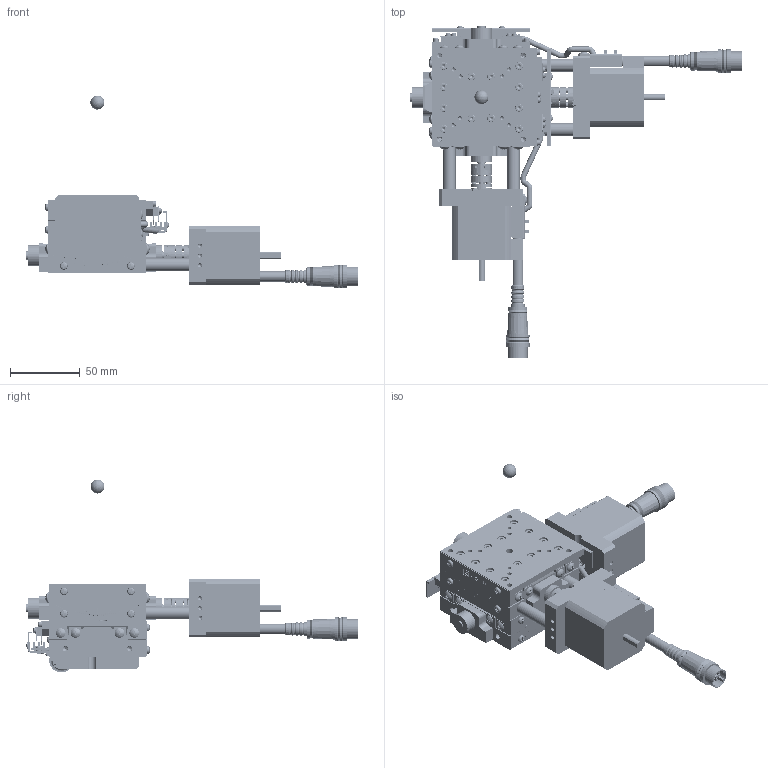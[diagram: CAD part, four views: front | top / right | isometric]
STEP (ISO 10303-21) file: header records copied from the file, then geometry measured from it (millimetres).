
FILE_DESCRIPTION (( 'STEP AP203' ), '1' );
FILE_NAME ('SA07A-RS02.STEP', '2019-02-27T04:08:47', ( '' ), ( '' ), 'SwSTEP 2.0', 'SolidWorks 2018', '' );
FILE_SCHEMA (( 'CONFIG_CONTROL_DESIGN' ));
Length unit declared in the file: millimetre
Products named in the file (11): second table-Part-2; second table; rotation center; base-Part-1; second table-Part-3; table; base-Part-3; base; base-Part-2; SA07A-RS02; second table-Part-1
Assembly tree (10 placements, depth 3):
  SA07A-RS02
    second table
      second table-Part-1
      second table-Part-2
      second table-Part-3
    base
      base-Part-1
      base-Part-2
      base-Part-3
    table
    rotation center
Bounding box: 237.5 x 237.68 x 138 mm (x, y, z)
Volume: 501157.6 mm3; surface area: 146398.2 mm2
Topology: 8 solids, 8 shells, 5500 faces, 13979 edges, 8695 vertices
Faces by surface type: plane 3272, cylinder 1378, cone 580, torus 164, sphere 94, bspline 12
Entity records: 169780 total; most frequent: CARTESIAN_POINT 33554, DIRECTION 29244, ORIENTED_EDGE 27532, EDGE_CURVE 13766, AXIS2_PLACEMENT_3D 10291, VERTEX_POINT 8680, VECTOR 8662, LINE 8662
